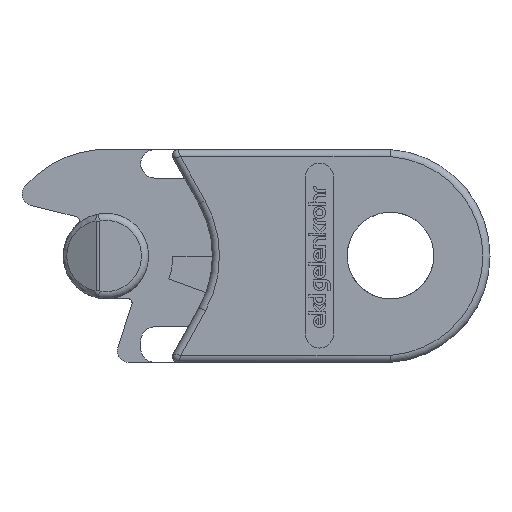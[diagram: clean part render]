
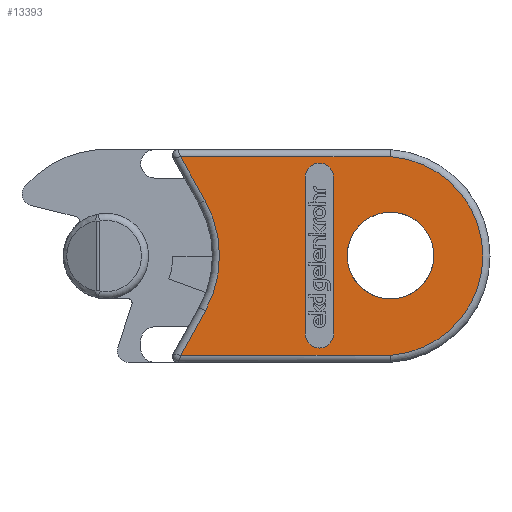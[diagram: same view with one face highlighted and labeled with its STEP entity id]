
A CAD part, left-side view. The second image highlights one B-rep face of the part: STEP entity #13393.
In plain terms, the highlighted planar face has unit normal (-1, 0, 0).
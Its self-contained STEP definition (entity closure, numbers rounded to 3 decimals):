
#13063=CARTESIAN_POINT('',(-33.14,101.973,-179.336));
#13064=VERTEX_POINT('',#13063);
#13065=CARTESIAN_POINT('',(-33.14,98.923,-179.336));
#13066=DIRECTION('',(1.0,0.0,0.0));
#13067=DIRECTION('',(0.0,-1.0,0.0));
#13068=AXIS2_PLACEMENT_3D('',#13065,#13066,#13067);
#13069=CIRCLE('',#13068,3.05);
#13070=EDGE_CURVE('',#13064,#13064,#13069,.T.);
#13297=CARTESIAN_POINT('',(-33.14,108.692,-178.965));
#13298=DIRECTION('',(-1.0,0.0,0.0));
#13299=DIRECTION('',(0.0,0.0,1.0));
#13300=AXIS2_PLACEMENT_3D('',#13297,#13298,#13299);
#13301=PLANE('',#13300);
#13302=CARTESIAN_POINT('',(-33.14,113.676,-186.348));
#13303=VERTEX_POINT('',#13302);
#13304=CARTESIAN_POINT('',(-33.14,111.95,-183.243));
#13305=VERTEX_POINT('',#13304);
#13306=CARTESIAN_POINT('',(-33.14,113.676,-186.348));
#13307=DIRECTION('',(0.,-0.486,0.874));
#13308=VECTOR('',#13307,3.552);
#13309=LINE('',#13306,#13308);
#13310=EDGE_CURVE('',#13303,#13305,#13309,.T.);
#13311=ORIENTED_EDGE('',*,*,#13310,.F.);
#13312=CARTESIAN_POINT('',(-33.14,98.944,-186.348));
#13313=VERTEX_POINT('',#13312);
#13314=CARTESIAN_POINT('',(-33.14,98.944,-186.348));
#13315=DIRECTION('',(0.,1.,0.));
#13316=VECTOR('',#13315,14.732);
#13317=LINE('',#13314,#13316);
#13318=EDGE_CURVE('',#13313,#13303,#13317,.T.);
#13319=ORIENTED_EDGE('',*,*,#13318,.F.);
#13320=CARTESIAN_POINT('',(-33.14,98.944,-172.382));
#13321=VERTEX_POINT('',#13320);
#13322=CARTESIAN_POINT('',(-33.14,99.427,-179.365));
#13323=DIRECTION('',(1.0,0.0,0.0));
#13324=DIRECTION('',(0.0,-1.0,0.0));
#13325=AXIS2_PLACEMENT_3D('',#13322,#13323,#13324);
#13326=CIRCLE('',#13325,7.);
#13327=EDGE_CURVE('',#13321,#13313,#13326,.T.);
#13328=ORIENTED_EDGE('',*,*,#13327,.F.);
#13329=CARTESIAN_POINT('',(-33.14,113.687,-172.382));
#13330=VERTEX_POINT('',#13329);
#13331=CARTESIAN_POINT('',(-33.14,113.687,-172.382));
#13332=DIRECTION('',(0.,-1.,0.));
#13333=VECTOR('',#13332,14.743);
#13334=LINE('',#13331,#13333);
#13335=EDGE_CURVE('',#13330,#13321,#13334,.T.);
#13336=ORIENTED_EDGE('',*,*,#13335,.F.);
#13337=CARTESIAN_POINT('',(-33.14,111.961,-175.466));
#13338=VERTEX_POINT('',#13337);
#13339=CARTESIAN_POINT('',(-33.14,111.961,-175.466));
#13340=DIRECTION('',(0.,0.488,0.873));
#13341=VECTOR('',#13340,3.535);
#13342=LINE('',#13339,#13341);
#13343=EDGE_CURVE('',#13338,#13330,#13342,.T.);
#13344=ORIENTED_EDGE('',*,*,#13343,.F.);
#13345=CARTESIAN_POINT('',(-33.14,118.928,-179.365));
#13346=DIRECTION('',(-1.0,0.,0.));
#13347=DIRECTION('',(0.,-1.,0.001));
#13348=AXIS2_PLACEMENT_3D('',#13345,#13346,#13347);
#13349=CIRCLE('',#13348,7.983);
#13350=EDGE_CURVE('',#13305,#13338,#13349,.T.);
#13351=ORIENTED_EDGE('',*,*,#13350,.F.);
#13352=EDGE_LOOP('',(#13311,#13319,#13328,#13336,#13344,#13351));
#13353=FACE_OUTER_BOUND('',#13352,.T.);
#13354=CARTESIAN_POINT('',(-33.14,104.923,-184.836));
#13355=VERTEX_POINT('',#13354);
#13356=CARTESIAN_POINT('',(-33.14,104.923,-173.836));
#13357=VERTEX_POINT('',#13356);
#13358=CARTESIAN_POINT('',(-33.14,104.923,-184.836));
#13359=DIRECTION('',(0.,0.,1.));
#13360=VECTOR('',#13359,11.);
#13361=LINE('',#13358,#13360);
#13362=EDGE_CURVE('',#13355,#13357,#13361,.T.);
#13363=ORIENTED_EDGE('',*,*,#13362,.T.);
#13364=CARTESIAN_POINT('',(-33.14,102.923,-173.836));
#13365=VERTEX_POINT('',#13364);
#13366=CARTESIAN_POINT('',(-33.14,103.923,-173.836));
#13367=DIRECTION('',(1.,0.,0.));
#13368=DIRECTION('',(0.,-1.,0.));
#13369=AXIS2_PLACEMENT_3D('',#13366,#13367,#13368);
#13370=CIRCLE('',#13369,1.);
#13371=EDGE_CURVE('',#13357,#13365,#13370,.T.);
#13372=ORIENTED_EDGE('',*,*,#13371,.T.);
#13373=CARTESIAN_POINT('',(-33.14,102.923,-184.836));
#13374=VERTEX_POINT('',#13373);
#13375=CARTESIAN_POINT('',(-33.14,102.923,-173.836));
#13376=DIRECTION('',(0.,0.,-1.));
#13377=VECTOR('',#13376,11.);
#13378=LINE('',#13375,#13377);
#13379=EDGE_CURVE('',#13365,#13374,#13378,.T.);
#13380=ORIENTED_EDGE('',*,*,#13379,.T.);
#13381=CARTESIAN_POINT('',(-33.14,103.923,-184.836));
#13382=DIRECTION('',(1.,0.,0.));
#13383=DIRECTION('',(0.,1.,0.));
#13384=AXIS2_PLACEMENT_3D('',#13381,#13382,#13383);
#13385=CIRCLE('',#13384,1.);
#13386=EDGE_CURVE('',#13374,#13355,#13385,.T.);
#13387=ORIENTED_EDGE('',*,*,#13386,.T.);
#13388=EDGE_LOOP('',(#13363,#13372,#13380,#13387));
#13389=FACE_BOUND('',#13388,.T.);
#13390=ORIENTED_EDGE('',*,*,#13070,.T.);
#13391=EDGE_LOOP('',(#13390));
#13392=FACE_BOUND('',#13391,.T.);
#13393=ADVANCED_FACE('',(#13353,#13389,#13392),#13301,.T.);
